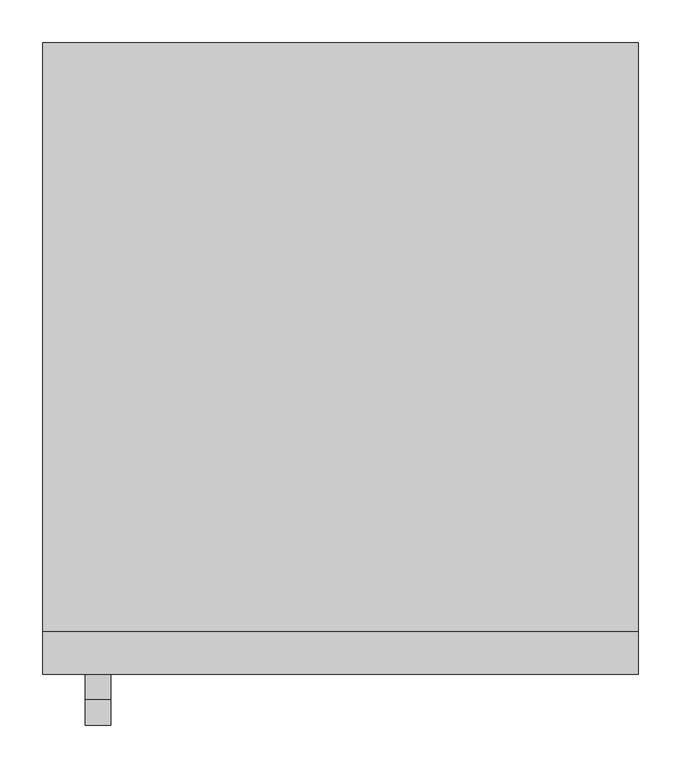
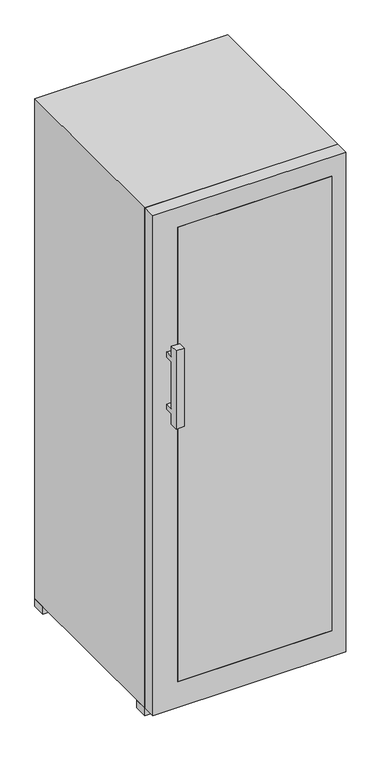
"""IFC4 building model written with IfcOpenShell, lengths in millimetres: proxy geometry, WTes 5872_136 : WTes 5872."""

import ifcopenshell
import ifcopenshell.guid

model = None  # the IFC model being written
_history = None  # IfcOwnerHistory: only IFC2X3 demands one
_inside = {}  # id of a spatial element -> (the spatial element, [elements in it])
_under = {}  # id of a project, library or spatial element -> (it, [spatial elements below it])
_declared = {}  # id of a project -> (the project, [libraries it declares])
_typed = {}  # id of a type object -> (the type object, [elements of that type])
_made_of = {}  # id of a material, layer set ... -> (it, [elements and type objects made of it])


def new_model(schema):
    """Start an empty IFC model of exactly this schema.

    Asked for "IFC4X3", IfcOpenShell would pick the latest addendum, in which some entities
    have other attributes; the version numbers below select the first issue.
    IFC2X3 requires an IfcOwnerHistory on every rooted entity: one is made here for all.
    """
    global model, _history
    if schema == "IFC4X3":
        model = ifcopenshell.file(schema_version=(4, 3, 0, 0))
    else:
        model = ifcopenshell.file(schema=schema)
    _inside.clear()
    _under.clear()
    _declared.clear()
    _typed.clear()
    _made_of.clear()
    _history = None
    if model.schema == "IFC2X3":
        org = make("IfcOrganization", Name="unknown")
        user = make(
            "IfcPersonAndOrganization",
            ThePerson=make("IfcPerson", FamilyName="unknown"),
            TheOrganization=org,
        )
        app = make(
            "IfcApplication",
            ApplicationDeveloper=org,
            Version="unknown",
            ApplicationFullName="unknown",
            ApplicationIdentifier="unknown",
        )
        _history = make(
            "IfcOwnerHistory",
            OwningUser=user,
            OwningApplication=app,
            ChangeAction="ADDED",
            CreationDate=0,
        )
    return model


def make(cls, **values):
    """One entity of the class cls with the attributes given. An attribute that is None is left unset."""
    return model.create_entity(
        cls, **{name: value for name, value in values.items() if value is not None}
    )


def rooted(cls, **values):
    """An entity with a GlobalId (a new one), such as an element, a storey or a relation."""
    return make(cls, GlobalId=ifcopenshell.guid.new(), OwnerHistory=_history, **values)


def si_unit(unit_type, name, prefix=None):
    """IfcSIUnit, for example si_unit("LENGTHUNIT", "METRE", prefix="MILLI")."""
    return make("IfcSIUnit", UnitType=unit_type, Prefix=prefix, Name=name)


def assignment(units):
    """IfcUnitAssignment: the units of a project."""
    return None if units is None else make("IfcUnitAssignment", Units=units)


def point(xyz):
    """IfcCartesianPoint."""
    return None if xyz is None else make("IfcCartesianPoint", Coordinates=xyz)


def direction(xyz):
    """IfcDirection."""
    return None if xyz is None else make("IfcDirection", DirectionRatios=xyz)


def frame(location, z_axis=None, x_axis=None):
    """IfcAxis2Placement3D, a coordinate frame: its origin and axes. An axis left out is left unset."""
    return make(
        "IfcAxis2Placement3D",
        Location=point(location),
        Axis=direction(z_axis),
        RefDirection=direction(x_axis),
    )


def frame_2d(location, x_axis=None):
    """IfcAxis2Placement2D, a coordinate frame in the plane: its origin and x axis."""
    return make(
        "IfcAxis2Placement2D", Location=point(location), RefDirection=direction(x_axis)
    )


def origin():
    """The frame at (0, 0, 0) with its axes left unset."""
    return frame((0.0, 0.0, 0.0))


def place(relative_to, where):
    """IfcLocalPlacement: puts the frame where relative to a parent placement (None: the world)."""
    return make(
        "IfcLocalPlacement", PlacementRelTo=relative_to, RelativePlacement=where
    )


def context(
    kind, dimensions, precision=None, world=None, true_north=None, identifier=None
):
    """IfcGeometricRepresentationContext, for example the 3D "Model" context."""
    return make(
        "IfcGeometricRepresentationContext",
        ContextIdentifier=identifier,
        ContextType=kind,
        CoordinateSpaceDimension=dimensions,
        Precision=precision,
        WorldCoordinateSystem=world,
        TrueNorth=true_north,
    )


def project(units=None, contexts=None):
    """IfcProject with its units and contexts."""
    return rooted(
        "IfcProject",
        Name="project",
        RepresentationContexts=contexts,
        UnitsInContext=assignment(units),
    )


def spatial(cls, under=None, at=None, **own):
    """A site, building, storey or space (cls), placed at a placement, below another one or the project."""
    s = rooted(cls, ObjectPlacement=at, **own)
    if under is not None:
        _under.setdefault(under.id(), (under, []))[1].append(s)
    return s


def polyline(points):
    """IfcPolyline through the points."""
    return make("IfcPolyline", Points=[point(p) for p in points])


def circle_curve(where, radius):
    """IfcCircle in the frame where."""
    return make("IfcCircle", Position=where, Radius=radius)


def trimmed(basis, trim1, trim2, sense, master):
    """IfcTrimmedCurve: the piece of a basis curve between two trims."""
    return make(
        "IfcTrimmedCurve",
        BasisCurve=basis,
        Trim1=trim1,
        Trim2=trim2,
        SenseAgreement=sense,
        MasterRepresentation=master,
    )


def segment(curve, same_sense, transition):
    """IfcCompositeCurveSegment."""
    return make(
        "IfcCompositeCurveSegment",
        Transition=transition,
        SameSense=same_sense,
        ParentCurve=curve,
    )


def composite_curve(segments, self_intersect=None):
    """IfcCompositeCurve: segments joined end to end."""
    return make("IfcCompositeCurve", Segments=segments, SelfIntersect=self_intersect)


def outline(outer, holes=None, kind="AREA"):
    """IfcArbitraryClosedProfileDef: a profile drawn as a closed curve; with holes, ...WithVoids."""
    if holes is None:
        return make("IfcArbitraryClosedProfileDef", ProfileType=kind, OuterCurve=outer)
    return make(
        "IfcArbitraryProfileDefWithVoids",
        ProfileType=kind,
        OuterCurve=outer,
        InnerCurves=holes,
    )


def extrude(swept, where, along, depth):
    """IfcExtrudedAreaSolid: the profile swept, set in the frame where, extruded along a direction by depth."""
    return make(
        "IfcExtrudedAreaSolid",
        SweptArea=swept,
        Position=where,
        ExtrudedDirection=direction(along),
        Depth=depth,
    )


def faces_of(points, faces, orient=None, outer=None):
    """IfcFace entities. A face is a list of loops; a loop is a list of indices into points, from 0.

    orient and outer hold one flag for each loop. By default every Orientation is true, the
    first loop of a face is its IfcFaceOuterBound and the others are IfcFaceBound.
    """
    made = []
    for i, loops in enumerate(faces):
        bounds = []
        for j, loop in enumerate(loops):
            is_outer = j == 0 if outer is None else outer[i][j]
            bounds.append(
                make(
                    "IfcFaceOuterBound" if is_outer else "IfcFaceBound",
                    Bound=make("IfcPolyLoop", Polygon=[points[k] for k in loop]),
                    Orientation=True if orient is None else orient[i][j],
                )
            )
        made.append(make("IfcFace", Bounds=bounds))
    return made


def faceted_brep(points, faces, orient=None, outer=None, voids=None):
    """IfcFacetedBrep: a solid bounded by flat faces; with voids (closed shells), ...WithVoids."""
    shared = [point(p) for p in points]
    hull = make("IfcClosedShell", CfsFaces=faces_of(shared, faces, orient, outer))
    if voids is None:
        return make("IfcFacetedBrep", Outer=hull)
    return make(
        "IfcFacetedBrepWithVoids",
        Outer=hull,
        Voids=[
            make(cls, CfsFaces=faces_of(shared, fs, o, b)) for cls, fs, o, b in voids
        ],
    )


def shape(context_of_items, identifier, shape_type, items):
    """IfcShapeRepresentation: the items that make up one representation, for example the "Body"."""
    return make(
        "IfcShapeRepresentation",
        ContextOfItems=context_of_items,
        RepresentationIdentifier=identifier,
        RepresentationType=shape_type,
        Items=items,
    )


def source(mapping_origin, context_of_items, identifier, shape_type, items):
    """IfcRepresentationMap: a shape defined once, which mapped items show again and again."""
    return make(
        "IfcRepresentationMap",
        MappingOrigin=mapping_origin,
        MappedRepresentation=shape(context_of_items, identifier, shape_type, items),
    )


def transform(
    local_origin,
    x_axis=None,
    y_axis=None,
    z_axis=None,
    scale=None,
    scale2=None,
    scale3=None,
    uniform=True,
):
    """IfcCartesianTransformationOperator3D, or its non-uniform kind. x_axis, y_axis, z_axis: its Axis1, 2, 3."""
    if uniform:
        return make(
            "IfcCartesianTransformationOperator3D",
            Axis1=direction(x_axis),
            Axis2=direction(y_axis),
            LocalOrigin=point(local_origin),
            Scale=scale,
            Axis3=direction(z_axis),
        )
    return make(
        "IfcCartesianTransformationOperator3DnonUniform",
        Axis1=direction(x_axis),
        Axis2=direction(y_axis),
        LocalOrigin=point(local_origin),
        Scale=scale,
        Axis3=direction(z_axis),
        Scale2=scale2,
        Scale3=scale3,
    )


def mapped(mapping_source, mapping_target):
    """IfcMappedItem: shows the shape of a source again, moved by a transform."""
    return make(
        "IfcMappedItem", MappingSource=mapping_source, MappingTarget=mapping_target
    )


def made_of(thing, what):
    """Note that an element or type object is made of a material, layer set ...; save() writes the relation."""
    if what is not None:
        _made_of.setdefault(what.id(), (what, []))[1].append(thing)
    return thing


def element(
    cls,
    number,
    at=None,
    inside=None,
    cuts=None,
    type_object=None,
    material=None,
    context=None,
    identifier="Body",
    shape_type=None,
    held_by="IfcProductDefinitionShape",
    body=None,
    shapes=None,
    **own,
):
    """One element of the class cls, such as IfcWall. Its Tag is "e" and its number.

    at: its placement. inside: the storey or other place that contains it. cuts: it is an
    opening in that element (IfcRelVoidsElement). A single representation is given by context,
    identifier, shape_type and body (its items); several are given by shapes. held_by: the class
    of the entity that holds the representations. save() writes the other relations.
    """
    e = rooted(cls, Tag="e%d" % number, ObjectPlacement=at, **own)
    if body is not None:
        shapes = [shape(context, identifier, shape_type, body)]
    if shapes is not None:
        e.Representation = make(held_by, Representations=shapes)
    if inside is not None:
        _inside.setdefault(inside.id(), (inside, []))[1].append(e)
    if cuts is not None:
        rooted(
            "IfcRelVoidsElement", RelatingBuildingElement=cuts, RelatedOpeningElement=e
        )
    if type_object is not None:
        _typed.setdefault(type_object.id(), (type_object, []))[1].append(e)
    return made_of(e, material)


def aggregate(whole, parts):
    """IfcRelAggregates: a whole, such as a stair, and the parts it consists of."""
    return rooted("IfcRelAggregates", RelatingObject=whole, RelatedObjects=parts)


def save(model, path):
    """Write the relations noted so far, then the file.

    IfcRelAggregates (storeys below a building ...), IfcRelContainedInSpatialStructure (elements
    in a storey), IfcRelDefinesByType, IfcRelAssociatesMaterial and IfcRelDeclares: one each for
    every whole, place, type object, material and project.
    """
    for whole, parts in _under.values():
        aggregate(whole, parts)
    for where, things in _inside.values():
        rooted(
            "IfcRelContainedInSpatialStructure",
            RelatedElements=things,
            RelatingStructure=where,
        )
    for kind, things in _typed.values():
        rooted("IfcRelDefinesByType", RelatedObjects=things, RelatingType=kind)
    for what, things in _made_of.values():
        rooted("IfcRelAssociatesMaterial", RelatedObjects=things, RelatingMaterial=what)
    for by, libraries in _declared.values():
        rooted("IfcRelDeclares", RelatingContext=by, RelatedDefinitions=libraries)
    model.write(path)


def specialty_equipment_297d572d(model_context):
    return source(origin(), model_context, "Body", "SolidModel", [
        extrude(outline(polyline([(-350.0, -79.8345306), (-350.0, -146.1086031), (-350.0, -700.5304175), (-350.0, -721.8345306), (-910.0, -721.8345306), (-910.0, -79.8345306), (-350.0, -79.8345306)]), holes=[polyline([(-819.7852483, -104.9633019), (-879.7772028, -104.9633019), (-879.7772028, -696.8345306), (-819.7852483, -696.8345306), (-819.7852483, -104.9633019)]), polyline([(-804.0966736, -696.8345306), (-739.7852483, -696.8345306), (-739.7852483, -104.9633019), (-804.0966736, -104.9633019), (-804.0966736, -696.8345306)]), polyline([(-724.0966736, -696.8345306), (-659.7852483, -696.8345306), (-659.7852483, -104.9633019), (-724.0966736, -104.9633019), (-724.0966736, -696.8345306)]), polyline([(-644.0966736, -696.8345306), (-574.7852483, -696.8345306), (-574.7852483, -104.9633019), (-644.0966736, -104.9633019), (-644.0966736, -696.8345306)]), polyline([(-379.0966736, -104.9633019), (-476.5966736, -104.9633019), (-476.5966736, -696.8345306), (-379.0966736, -696.8345306), (-379.0966736, -104.9633019)]), polyline([(-559.0966736, -696.8345306), (-492.2852483, -696.8345306), (-492.2852483, -104.9633019), (-559.0966736, -104.9633019), (-559.0966736, -696.8345306)])]), frame((0.0, 0.0, 1011.8132517), z_axis=(0.0, 0.0, 1.0), x_axis=(1.0, 0.0, 0.0)), (0.0, 0.0, 1.0), 15.0),
        extrude(outline(polyline([(-350.0, -79.8345306), (-350.0, -146.1086031), (-350.0, -700.5304175), (-350.0, -721.8345306), (-910.0, -721.8345306), (-910.0, -79.8345306), (-350.0, -79.8345306)]), holes=[polyline([(-819.7852483, -104.9633019), (-879.7772028, -104.9633019), (-879.7772028, -696.8345306), (-819.7852483, -696.8345306), (-819.7852483, -104.9633019)]), polyline([(-804.0966736, -696.8345306), (-739.7852483, -696.8345306), (-739.7852483, -104.9633019), (-804.0966736, -104.9633019), (-804.0966736, -696.8345306)]), polyline([(-724.0966736, -696.8345306), (-659.7852483, -696.8345306), (-659.7852483, -104.9633019), (-724.0966736, -104.9633019), (-724.0966736, -696.8345306)]), polyline([(-644.0966736, -696.8345306), (-574.7852483, -696.8345306), (-574.7852483, -104.9633019), (-644.0966736, -104.9633019), (-644.0966736, -696.8345306)]), polyline([(-379.0966736, -104.9633019), (-476.5966736, -104.9633019), (-476.5966736, -696.8345306), (-379.0966736, -696.8345306), (-379.0966736, -104.9633019)]), polyline([(-559.0966736, -696.8345306), (-492.2852483, -696.8345306), (-492.2852483, -104.9633019), (-559.0966736, -104.9633019), (-559.0966736, -696.8345306)])]), frame((0.0, 0.0, 891.8132517), z_axis=(0.0, 0.0, 1.0), x_axis=(1.0, 0.0, 0.0)), (0.0, 0.0, 1.0), 15.0),
        extrude(outline(polyline([(-350.0, -79.8345306), (-350.0, -146.1086031), (-350.0, -700.5304175), (-350.0, -721.8345306), (-910.0, -721.8345306), (-910.0, -79.8345306), (-350.0, -79.8345306)]), holes=[polyline([(-819.7852483, -104.9633019), (-879.7772028, -104.9633019), (-879.7772028, -696.8345306), (-819.7852483, -696.8345306), (-819.7852483, -104.9633019)]), polyline([(-804.0966736, -696.8345306), (-739.7852483, -696.8345306), (-739.7852483, -104.9633019), (-804.0966736, -104.9633019), (-804.0966736, -696.8345306)]), polyline([(-724.0966736, -696.8345306), (-659.7852483, -696.8345306), (-659.7852483, -104.9633019), (-724.0966736, -104.9633019), (-724.0966736, -696.8345306)]), polyline([(-644.0966736, -696.8345306), (-574.7852483, -696.8345306), (-574.7852483, -104.9633019), (-644.0966736, -104.9633019), (-644.0966736, -696.8345306)]), polyline([(-379.0966736, -104.9633019), (-476.5966736, -104.9633019), (-476.5966736, -696.8345306), (-379.0966736, -696.8345306), (-379.0966736, -104.9633019)]), polyline([(-559.0966736, -696.8345306), (-492.2852483, -696.8345306), (-492.2852483, -104.9633019), (-559.0966736, -104.9633019), (-559.0966736, -696.8345306)])]), frame((0.0, 0.0, 771.8132517), z_axis=(0.0, 0.0, 1.0), x_axis=(1.0, 0.0, 0.0)), (0.0, 0.0, 1.0), 15.0),
        extrude(outline(polyline([(-350.0, -79.8345306), (-350.0, -146.1086031), (-350.0, -700.5304175), (-350.0, -721.8345306), (-910.0, -721.8345306), (-910.0, -79.8345306), (-350.0, -79.8345306)]), holes=[polyline([(-819.7852483, -104.9633019), (-879.7772028, -104.9633019), (-879.7772028, -696.8345306), (-819.7852483, -696.8345306), (-819.7852483, -104.9633019)]), polyline([(-804.0966736, -696.8345306), (-739.7852483, -696.8345306), (-739.7852483, -104.9633019), (-804.0966736, -104.9633019), (-804.0966736, -696.8345306)]), polyline([(-724.0966736, -696.8345306), (-659.7852483, -696.8345306), (-659.7852483, -104.9633019), (-724.0966736, -104.9633019), (-724.0966736, -696.8345306)]), polyline([(-644.0966736, -696.8345306), (-574.7852483, -696.8345306), (-574.7852483, -104.9633019), (-644.0966736, -104.9633019), (-644.0966736, -696.8345306)]), polyline([(-379.0966736, -104.9633019), (-476.5966736, -104.9633019), (-476.5966736, -696.8345306), (-379.0966736, -696.8345306), (-379.0966736, -104.9633019)]), polyline([(-559.0966736, -696.8345306), (-492.2852483, -696.8345306), (-492.2852483, -104.9633019), (-559.0966736, -104.9633019), (-559.0966736, -696.8345306)])]), frame((0.0, 0.0, 351.8132517), z_axis=(0.0, 0.0, 1.0), x_axis=(1.0, 0.0, 0.0)), (0.0, 0.0, 1.0), 15.0),
        extrude(outline(polyline([(-350.0, -79.8345306), (-350.0, -146.1086031), (-350.0, -700.5304175), (-350.0, -721.8345306), (-910.0, -721.8345306), (-910.0, -79.8345306), (-350.0, -79.8345306)]), holes=[polyline([(-819.7852483, -104.9633019), (-879.7772028, -104.9633019), (-879.7772028, -696.8345306), (-819.7852483, -696.8345306), (-819.7852483, -104.9633019)]), polyline([(-804.0966736, -696.8345306), (-739.7852483, -696.8345306), (-739.7852483, -104.9633019), (-804.0966736, -104.9633019), (-804.0966736, -696.8345306)]), polyline([(-724.0966736, -696.8345306), (-659.7852483, -696.8345306), (-659.7852483, -104.9633019), (-724.0966736, -104.9633019), (-724.0966736, -696.8345306)]), polyline([(-644.0966736, -696.8345306), (-574.7852483, -696.8345306), (-574.7852483, -104.9633019), (-644.0966736, -104.9633019), (-644.0966736, -696.8345306)]), polyline([(-379.0966736, -104.9633019), (-476.5966736, -104.9633019), (-476.5966736, -696.8345306), (-379.0966736, -696.8345306), (-379.0966736, -104.9633019)]), polyline([(-559.0966736, -696.8345306), (-492.2852483, -696.8345306), (-492.2852483, -104.9633019), (-559.0966736, -104.9633019), (-559.0966736, -696.8345306)])]), frame((0.0, 0.0, 221.8132517), z_axis=(0.0, 0.0, 1.0), x_axis=(1.0, 0.0, 0.0)), (0.0, 0.0, 1.0), 15.0),
        extrude(outline(polyline([(-350.0, -79.8345306), (-350.0, -146.1086031), (-350.0, -700.5304175), (-350.0, -721.8345306), (-910.0, -721.8345306), (-910.0, -79.8345306), (-350.0, -79.8345306)]), holes=[polyline([(-819.7852483, -104.9633019), (-879.7772028, -104.9633019), (-879.7772028, -696.8345306), (-819.7852483, -696.8345306), (-819.7852483, -104.9633019)]), polyline([(-804.0966736, -696.8345306), (-739.7852483, -696.8345306), (-739.7852483, -104.9633019), (-804.0966736, -104.9633019), (-804.0966736, -696.8345306)]), polyline([(-724.0966736, -696.8345306), (-659.7852483, -696.8345306), (-659.7852483, -104.9633019), (-724.0966736, -104.9633019), (-724.0966736, -696.8345306)]), polyline([(-644.0966736, -696.8345306), (-574.7852483, -696.8345306), (-574.7852483, -104.9633019), (-644.0966736, -104.9633019), (-644.0966736, -696.8345306)]), polyline([(-379.0966736, -104.9633019), (-476.5966736, -104.9633019), (-476.5966736, -696.8345306), (-379.0966736, -696.8345306), (-379.0966736, -104.9633019)]), polyline([(-559.0966736, -696.8345306), (-492.2852483, -696.8345306), (-492.2852483, -104.9633019), (-559.0966736, -104.9633019), (-559.0966736, -696.8345306)])]), frame((0.0, 0.0, 621.7238099), z_axis=(0.0, 0.0, 1.0), x_axis=(1.0, 0.0, 0.0)), (0.0, 0.0, 1.0), 25.0),
        extrude(outline(polyline([(-350.0, -79.8345306), (-350.0, -146.1086031), (-350.0, -700.5304175), (-350.0, -721.8345306), (-910.0, -721.8345306), (-910.0, -79.8345306), (-350.0, -79.8345306)]), holes=[polyline([(-819.7852483, -104.9633019), (-879.7772028, -104.9633019), (-879.7772028, -696.8345306), (-819.7852483, -696.8345306), (-819.7852483, -104.9633019)]), polyline([(-804.0966736, -696.8345306), (-739.7852483, -696.8345306), (-739.7852483, -104.9633019), (-804.0966736, -104.9633019), (-804.0966736, -696.8345306)]), polyline([(-724.0966736, -696.8345306), (-659.7852483, -696.8345306), (-659.7852483, -104.9633019), (-724.0966736, -104.9633019), (-724.0966736, -696.8345306)]), polyline([(-644.0966736, -696.8345306), (-574.7852483, -696.8345306), (-574.7852483, -104.9633019), (-644.0966736, -104.9633019), (-644.0966736, -696.8345306)]), polyline([(-379.0966736, -104.9633019), (-476.5966736, -104.9633019), (-476.5966736, -696.8345306), (-379.0966736, -696.8345306), (-379.0966736, -104.9633019)]), polyline([(-559.0966736, -696.8345306), (-492.2852483, -696.8345306), (-492.2852483, -104.9633019), (-559.0966736, -104.9633019), (-559.0966736, -696.8345306)])]), frame((0.0, 0.0, 111.7238099), z_axis=(0.0, 0.0, 1.0), x_axis=(1.0, 0.0, 0.0)), (0.0, 0.0, 1.0), 25.0),
        extrude(outline(polyline([(-350.0, -79.8345306), (-350.0, -146.1086031), (-350.0, -700.5304175), (-350.0, -721.8345306), (-910.0, -721.8345306), (-910.0, -79.8345306), (-350.0, -79.8345306)]), holes=[polyline([(-819.7852483, -104.9633019), (-879.7772028, -104.9633019), (-879.7772028, -696.8345306), (-819.7852483, -696.8345306), (-819.7852483, -104.9633019)]), polyline([(-804.0966736, -696.8345306), (-739.7852483, -696.8345306), (-739.7852483, -104.9633019), (-804.0966736, -104.9633019), (-804.0966736, -696.8345306)]), polyline([(-724.0966736, -696.8345306), (-659.7852483, -696.8345306), (-659.7852483, -104.9633019), (-724.0966736, -104.9633019), (-724.0966736, -696.8345306)]), polyline([(-644.0966736, -696.8345306), (-574.7852483, -696.8345306), (-574.7852483, -104.9633019), (-644.0966736, -104.9633019), (-644.0966736, -696.8345306)]), polyline([(-379.0966736, -104.9633019), (-476.5966736, -104.9633019), (-476.5966736, -696.8345306), (-379.0966736, -696.8345306), (-379.0966736, -104.9633019)]), polyline([(-559.0966736, -696.8345306), (-492.2852483, -696.8345306), (-492.2852483, -104.9633019), (-559.0966736, -104.9633019), (-559.0966736, -696.8345306)])]), frame((0.0, 0.0, -58.1867483), z_axis=(0.0, 0.0, 1.0), x_axis=(1.0, 0.0, 0.0)), (0.0, 0.0, 1.0), 15.0),
        extrude(outline(polyline([(-350.0, -79.8345306), (-350.0, -146.1086031), (-350.0, -700.5304175), (-350.0, -721.8345306), (-910.0, -721.8345306), (-910.0, -79.8345306), (-350.0, -79.8345306)]), holes=[polyline([(-819.7852483, -104.9633019), (-879.7772028, -104.9633019), (-879.7772028, -696.8345306), (-819.7852483, -696.8345306), (-819.7852483, -104.9633019)]), polyline([(-804.0966736, -696.8345306), (-739.7852483, -696.8345306), (-739.7852483, -104.9633019), (-804.0966736, -104.9633019), (-804.0966736, -696.8345306)]), polyline([(-724.0966736, -696.8345306), (-659.7852483, -696.8345306), (-659.7852483, -104.9633019), (-724.0966736, -104.9633019), (-724.0966736, -696.8345306)]), polyline([(-644.0966736, -696.8345306), (-574.7852483, -696.8345306), (-574.7852483, -104.9633019), (-644.0966736, -104.9633019), (-644.0966736, -696.8345306)]), polyline([(-379.0966736, -104.9633019), (-476.5966736, -104.9633019), (-476.5966736, -696.8345306), (-379.0966736, -696.8345306), (-379.0966736, -104.9633019)]), polyline([(-559.0966736, -696.8345306), (-492.2852483, -696.8345306), (-492.2852483, -104.9633019), (-559.0966736, -104.9633019), (-559.0966736, -696.8345306)])]), frame((0.0, 0.0, -188.1867483), z_axis=(0.0, 0.0, 1.0), x_axis=(1.0, 0.0, 0.0)), (0.0, 0.0, 1.0), 15.0),
        extrude(outline(polyline([(-350.0, -79.8345306), (-350.0, -146.1086031), (-350.0, -700.5304175), (-350.0, -721.8345306), (-910.0, -721.8345306), (-910.0, -79.8345306), (-350.0, -79.8345306)]), holes=[polyline([(-819.7852483, -104.9633019), (-879.7772028, -104.9633019), (-879.7772028, -696.8345306), (-819.7852483, -696.8345306), (-819.7852483, -104.9633019)]), polyline([(-804.0966736, -696.8345306), (-739.7852483, -696.8345306), (-739.7852483, -104.9633019), (-804.0966736, -104.9633019), (-804.0966736, -696.8345306)]), polyline([(-724.0966736, -696.8345306), (-659.7852483, -696.8345306), (-659.7852483, -104.9633019), (-724.0966736, -104.9633019), (-724.0966736, -696.8345306)]), polyline([(-644.0966736, -696.8345306), (-574.7852483, -696.8345306), (-574.7852483, -104.9633019), (-644.0966736, -104.9633019), (-644.0966736, -696.8345306)]), polyline([(-379.0966736, -104.9633019), (-476.5966736, -104.9633019), (-476.5966736, -696.8345306), (-379.0966736, -696.8345306), (-379.0966736, -104.9633019)]), polyline([(-559.0966736, -696.8345306), (-492.2852483, -696.8345306), (-492.2852483, -104.9633019), (-559.0966736, -104.9633019), (-559.0966736, -696.8345306)])]), frame((0.0, 0.0, -308.1867483), z_axis=(0.0, 0.0, 1.0), x_axis=(1.0, 0.0, 0.0)), (0.0, 0.0, 1.0), 15.0),
        extrude(outline(polyline([(-350.0, -79.8345306), (-350.0, -146.1086031), (-350.0, -700.5304175), (-350.0, -721.8345306), (-910.0, -721.8345306), (-910.0, -79.8345306), (-350.0, -79.8345306)]), holes=[polyline([(-819.7852483, -104.9633019), (-879.7772028, -104.9633019), (-879.7772028, -696.8345306), (-819.7852483, -696.8345306), (-819.7852483, -104.9633019)]), polyline([(-804.0966736, -696.8345306), (-739.7852483, -696.8345306), (-739.7852483, -104.9633019), (-804.0966736, -104.9633019), (-804.0966736, -696.8345306)]), polyline([(-724.0966736, -696.8345306), (-659.7852483, -696.8345306), (-659.7852483, -104.9633019), (-724.0966736, -104.9633019), (-724.0966736, -696.8345306)]), polyline([(-644.0966736, -696.8345306), (-574.7852483, -696.8345306), (-574.7852483, -104.9633019), (-644.0966736, -104.9633019), (-644.0966736, -696.8345306)]), polyline([(-379.0966736, -104.9633019), (-476.5966736, -104.9633019), (-476.5966736, -696.8345306), (-379.0966736, -696.8345306), (-379.0966736, -104.9633019)]), polyline([(-559.0966736, -696.8345306), (-492.2852483, -696.8345306), (-492.2852483, -104.9633019), (-559.0966736, -104.9633019), (-559.0966736, -696.8345306)])]), frame((0.0, 0.0, -423.1867483), z_axis=(0.0, 0.0, 1.0), x_axis=(1.0, 0.0, 0.0)), (0.0, 0.0, 1.0), 15.0),
        extrude(outline(polyline([(-350.0, -721.8345306), (-910.0, -721.8345306), (-910.0, -79.8345306), (-350.0, -79.8345306), (-350.0, -721.8345306)])), frame((0.0, 0.0, 34.0772257), z_axis=(0.0, 0.0, 1.0), x_axis=(1.0, 0.0, 0.0)), (0.0, 0.0, 1.0), 77.6465843),
        extrude(outline(polyline([(-350.0, -721.8345306), (-910.0, -721.8345306), (-910.0, -79.8345306), (-350.0, -79.8345306), (-350.0, -721.8345306)])), frame((0.0, 0.0, 550.5298817), z_axis=(0.0, 0.0, 1.0), x_axis=(1.0, 0.0, 0.0)), (0.0, 0.0, 1.0), 71.1939282),
        extrude(outline(polyline([(-350.0, -79.8345306), (-350.0, -146.1086031), (-350.0, -700.5304175), (-350.0, -721.8345306), (-910.0, -721.8345306), (-910.0, -79.8345306), (-350.0, -79.8345306)]), holes=[polyline([(-819.7852483, -104.9633019), (-879.7772028, -104.9633019), (-879.7772028, -696.8345306), (-819.7852483, -696.8345306), (-819.7852483, -104.9633019)]), polyline([(-804.0966736, -696.8345306), (-739.7852483, -696.8345306), (-739.7852483, -104.9633019), (-804.0966736, -104.9633019), (-804.0966736, -696.8345306)]), polyline([(-724.0966736, -696.8345306), (-659.7852483, -696.8345306), (-659.7852483, -104.9633019), (-724.0966736, -104.9633019), (-724.0966736, -696.8345306)]), polyline([(-644.0966736, -696.8345306), (-574.7852483, -696.8345306), (-574.7852483, -104.9633019), (-644.0966736, -104.9633019), (-644.0966736, -696.8345306)]), polyline([(-379.0966736, -104.9633019), (-476.5966736, -104.9633019), (-476.5966736, -696.8345306), (-379.0966736, -696.8345306), (-379.0966736, -104.9633019)]), polyline([(-559.0966736, -696.8345306), (-492.2852483, -696.8345306), (-492.2852483, -104.9633019), (-559.0966736, -104.9633019), (-559.0966736, -696.8345306)])]), frame((0.0, 0.0, -603.1867483), z_axis=(0.0, 0.0, 1.0), x_axis=(1.0, 0.0, 0.0)), (0.0, 0.0, 1.0), 15.0),
        extrude(outline(polyline([(-614.0052628, -722.6911275), (-659.0052628, -722.6911275), (-659.0052628, -721.8345306), (-614.0052628, -721.8345306), (-614.0052628, -722.6911275)])), frame((0.0, 0.0, 572.9069462), z_axis=(0.0, 0.0, 1.0), x_axis=(1.0, 0.0, 0.0)), (0.0, 0.0, 1.0), 35.5400038),
        extrude(outline(composite_curve([segment(trimmed(circle_curve(frame_2d((608.44695, -748.0875741)), 2.9821857), [point((608.44695, -751.0697598))], [point((608.44695, -745.1053884))], False, "CARTESIAN"), True, "CONTINUOUS"), segment(trimmed(circle_curve(frame_2d((608.44695, -748.0875741)), 2.9821857), [point((608.44695, -745.1053884))], [point((608.44695, -751.0697598))], False, "CARTESIAN"), True, "CONTINUOUS")], self_intersect=False)), frame((0.0, -722.6911275, 0.0), z_axis=(0.0, 1.0, 0.0), x_axis=(0.0, 0.0, 1.0)), (0.0, 0.0, 1.0), 0.8565969),
        extrude(outline(composite_curve([segment(trimmed(circle_curve(frame_2d((608.44695, -733.0875741)), 2.9821857), [point((608.44695, -736.0697598))], [point((608.44695, -730.1053884))], False, "CARTESIAN"), True, "CONTINUOUS"), segment(trimmed(circle_curve(frame_2d((608.44695, -733.0875741)), 2.9821857), [point((608.44695, -730.1053884))], [point((608.44695, -736.0697598))], False, "CARTESIAN"), True, "CONTINUOUS")], self_intersect=False)), frame((0.0, -722.6911275, 0.0), z_axis=(0.0, 1.0, 0.0), x_axis=(0.0, 0.0, 1.0)), (0.0, 0.0, 1.0), 0.8565969),
        extrude(outline(composite_curve([segment(trimmed(circle_curve(frame_2d((608.44695, -718.0875741)), 2.9821857), [point((608.44695, -721.0697598))], [point((608.44695, -715.1053884))], False, "CARTESIAN"), True, "CONTINUOUS"), segment(trimmed(circle_curve(frame_2d((608.44695, -718.0875741)), 2.9821857), [point((608.44695, -715.1053884))], [point((608.44695, -721.0697598))], False, "CARTESIAN"), True, "CONTINUOUS")], self_intersect=False)), frame((0.0, -722.6911275, 0.0), z_axis=(0.0, 1.0, 0.0), x_axis=(0.0, 0.0, 1.0)), (0.0, 0.0, 1.0), 0.8565969),
        extrude(outline(composite_curve([segment(trimmed(circle_curve(frame_2d((608.44695, -703.0875741)), 2.9821857), [point((608.44695, -706.0697598))], [point((608.44695, -700.1053884))], False, "CARTESIAN"), True, "CONTINUOUS"), segment(trimmed(circle_curve(frame_2d((608.44695, -703.0875741)), 2.9821857), [point((608.44695, -700.1053884))], [point((608.44695, -706.0697598))], False, "CARTESIAN"), True, "CONTINUOUS")], self_intersect=False)), frame((0.0, -722.6911275, 0.0), z_axis=(0.0, 1.0, 0.0), x_axis=(0.0, 0.0, 1.0)), (0.0, 0.0, 1.0), 0.8565969),
        extrude(outline(composite_curve([segment(trimmed(circle_curve(frame_2d((562.6136133, -579.0505545)), 2.9821857), [point((562.6136133, -582.0327402))], [point((562.6136133, -576.0683688))], False, "CARTESIAN"), True, "CONTINUOUS"), segment(trimmed(circle_curve(frame_2d((562.6136133, -579.0505545)), 2.9821857), [point((562.6136133, -576.0683688))], [point((562.6136133, -582.0327402))], False, "CARTESIAN"), True, "CONTINUOUS")], self_intersect=False)), frame((0.0, -722.6911275, 0.0), z_axis=(0.0, 1.0, 0.0), x_axis=(0.0, 0.0, 1.0)), (0.0, 0.0, 1.0), 0.8565969),
        extrude(outline(composite_curve([segment(trimmed(circle_curve(frame_2d((562.6136133, -564.0505545)), 2.9821857), [point((562.6136133, -567.0327402))], [point((562.6136133, -561.0683688))], False, "CARTESIAN"), True, "CONTINUOUS"), segment(trimmed(circle_curve(frame_2d((562.6136133, -564.0505545)), 2.9821857), [point((562.6136133, -561.0683688))], [point((562.6136133, -567.0327402))], False, "CARTESIAN"), True, "CONTINUOUS")], self_intersect=False)), frame((0.0, -722.6911275, 0.0), z_axis=(0.0, 1.0, 0.0), x_axis=(0.0, 0.0, 1.0)), (0.0, 0.0, 1.0), 0.8565969),
        extrude(outline(composite_curve([segment(trimmed(circle_curve(frame_2d((562.6136133, -549.0505545)), 2.9821857), [point((562.6136133, -552.0327402))], [point((562.6136133, -546.0683688))], False, "CARTESIAN"), True, "CONTINUOUS"), segment(trimmed(circle_curve(frame_2d((562.6136133, -549.0505545)), 2.9821857), [point((562.6136133, -546.0683688))], [point((562.6136133, -552.0327402))], False, "CARTESIAN"), True, "CONTINUOUS")], self_intersect=False)), frame((0.0, -722.6911275, 0.0), z_axis=(0.0, 1.0, 0.0), x_axis=(0.0, 0.0, 1.0)), (0.0, 0.0, 1.0), 0.8565969),
        extrude(outline(composite_curve([segment(trimmed(circle_curve(frame_2d((562.6136133, -534.0505545)), 2.9821857), [point((562.6136133, -537.0327402))], [point((562.6136133, -531.0683688))], False, "CARTESIAN"), True, "CONTINUOUS"), segment(trimmed(circle_curve(frame_2d((562.6136133, -534.0505545)), 2.9821857), [point((562.6136133, -531.0683688))], [point((562.6136133, -537.0327402))], False, "CARTESIAN"), True, "CONTINUOUS")], self_intersect=False)), frame((0.0, -722.6911275, 0.0), z_axis=(0.0, 1.0, 0.0), x_axis=(0.0, 0.0, 1.0)), (0.0, 0.0, 1.0), 0.8565969),
        extrude(outline(polyline([(-832.8794678, -722.6911275), (-902.8794678, -722.6911275), (-902.8794678, -721.8345306), (-832.8794678, -721.8345306), (-832.8794678, -722.6911275)])), frame((0.0, 0.0, 603.44695), z_axis=(0.0, 0.0, 1.0), x_axis=(1.0, 0.0, 0.0)), (0.0, 0.0, 1.0), 5.0),
        extrude(outline(polyline([(-350.0, -771.8345306), (-910.0, -771.8345306), (-910.0, -721.8345306), (-350.0, -721.8345306), (-350.0, -771.8345306)])), frame((0.0, 0.0, -603.1867483), z_axis=(0.0, 0.0, 1.0), x_axis=(1.0, 0.0, 0.0)), (0.0, 0.0, 1.0), 1745.0),
        extrude(outline(polyline([(1216.8132517, -300.0), (1216.8132517, -1000.0), (-703.1867483, -1000.0), (-703.1867483, -300.0), (1216.8132517, -300.0)]), holes=[polyline([(1141.8132517, -910.0), (1141.8132517, -350.0), (-603.1867483, -350.0), (-603.1867483, -910.0), (1141.8132517, -910.0)])]), frame((0.0, -771.8345306, 0.0), z_axis=(0.0, 1.0, 0.0), x_axis=(0.0, 0.0, 1.0)), (0.0, 0.0, 1.0), 50.0),
        faceted_brep([(-300.0, -721.8345306, 1216.8132517), (-1000.0, -721.8345306, 1216.8132517), (-1000.0, -721.8345306, -703.1867483), (-300.0, -721.8345306, -703.1867483), (-910.0, -721.8345306, 1141.8132517), (-350.0, -721.8345306, 1141.8132517), (-350.0, -721.8345306, -603.1867483), (-910.0, -721.8345306, -603.1867483), (-300.0, -29.8345306, 1216.8132517), (-300.0, -29.8345306, -703.1867483), (-1000.0, -29.8345306, -703.1867483), (-1000.0, -29.8345306, 1216.8132517), (-350.0, -79.8345306, 1141.8132517), (-910.0, -79.8345306, 1141.8132517), (-910.0, -79.8345306, -603.1867483), (-350.0, -79.8345306, -603.1867483)], [[[0, 1, 2, 3], [4, 5, 6, 7]], [[8, 9, 10, 11]], [[1, 0, 8, 11]], [[2, 1, 11, 10]], [[3, 2, 10, 9]], [[0, 3, 9, 8]], [[12, 13, 14, 15]], [[13, 12, 5, 4]], [[14, 13, 4, 7]], [[15, 14, 7, 6]], [[12, 15, 6, 5]]]),
        extrude(outline(polyline([(-300.0, -671.8345306), (-300.0, -721.8345306), (-350.0, -721.8345306), (-350.0, -671.8345306), (-300.0, -671.8345306)])), frame((0.0, 0.0, -733.1867483), z_axis=(0.0, 0.0, 1.0), x_axis=(1.0, 0.0, 0.0)), (0.0, 0.0, 1.0), 30.0),
        extrude(outline(polyline([(-300.0, -29.8345306), (-300.0, -79.8345306), (-350.0, -79.8345306), (-350.0, -29.8345306), (-300.0, -29.8345306)])), frame((0.0, 0.0, -733.1867483), z_axis=(0.0, 0.0, 1.0), x_axis=(1.0, 0.0, 0.0)), (0.0, 0.0, 1.0), 30.0),
        extrude(outline(polyline([(-950.0, -29.8345306), (-950.0, -79.8345306), (-1000.0, -79.8345306), (-1000.0, -29.8345306), (-950.0, -29.8345306)])), frame((0.0, 0.0, -733.1867483), z_axis=(0.0, 0.0, 1.0), x_axis=(1.0, 0.0, 0.0)), (0.0, 0.0, 1.0), 30.0),
        extrude(outline(polyline([(-950.0, -671.8345306), (-950.0, -721.8345306), (-1000.0, -721.8345306), (-1000.0, -671.8345306), (-950.0, -671.8345306)])), frame((0.0, 0.0, -733.1867483), z_axis=(0.0, 0.0, 1.0), x_axis=(1.0, 0.0, 0.0)), (0.0, 0.0, 1.0), 30.0),
        extrude(outline(polyline([(-801.8345306, 676.8132517), (-771.8345306, 676.8132517), (-771.8345306, 656.8132517), (-801.8345306, 656.8132517), (-801.8345306, 476.8132517), (-771.8345306, 476.8132517), (-771.8345306, 456.8132517), (-801.8345306, 456.8132517), (-801.8345306, 416.8132517), (-831.8345306, 416.8132517), (-831.8345306, 716.8132517), (-801.8345306, 716.8132517), (-801.8345306, 676.8132517)])), frame((-950.0, 0.0, 0.0), z_axis=(1.0, 0.0, 0.0), x_axis=(0.0, 1.0, 0.0)), (0.0, 0.0, 1.0), 30.0),
    ])


if __name__ == "__main__":
    model = new_model("IFC4")
    model_context = context("Model", 3, world=origin())
    ifc_project = project(units=[si_unit("LENGTHUNIT", "METRE", prefix="MILLI")], contexts=[model_context])
    site = spatial("IfcSite", under=ifc_project)
    building = spatial("IfcBuilding", under=site)
    placement = place(None, origin())
    specialty_equipment_shape = specialty_equipment_297d572d(model_context)
    element("IfcBuildingElementProxy", 1, Name="WTes 5872_136 : WTes 5872", ObjectType="WTes 5872_136 : WTes 5872", at=placement, inside=building, context=model_context, shape_type="MappedRepresentation", body=[
        mapped(specialty_equipment_shape, transform((0.0, 0.0, 0.0), x_axis=(1.0, 0.0, 0.0), y_axis=(0.0, 1.0, 0.0), z_axis=(0.0, 0.0, 1.0))),
    ])
    save(model, "model.ifc")
